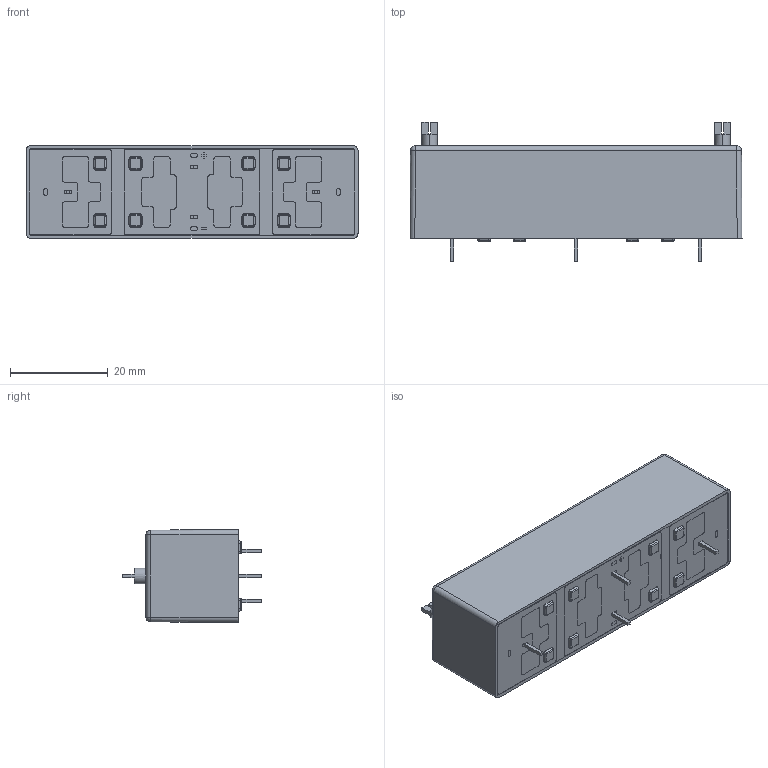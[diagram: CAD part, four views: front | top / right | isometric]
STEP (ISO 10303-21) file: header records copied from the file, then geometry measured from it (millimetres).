
FILE_DESCRIPTION (( 'STEP AP203' ), '1' );
FILE_NAME ('Series 600 - 620 1A or B TB-1.STEP', '2025-07-01T09:10:19', ( '' ), ( '' ), 'SwSTEP 2.0', 'SolidWorks 2023', '' );
FILE_SCHEMA (( 'CONFIG_CONTROL_DESIGN' ));
Length unit declared in the file: millimetre
Products named in the file (1): Series 600 - 620 1A or B TB-1
Bounding box: 68 x 28.5 x 19 mm (x, y, z)
Volume: 3079.9 mm3; surface area: 11708.4 mm2
Topology: 39 solids, 39 shells, 965 faces, 2480 edges, 1596 vertices
Faces by surface type: plane 457, cylinder 376, bspline 96, sphere 36
Entity records: 29999 total; most frequent: CARTESIAN_POINT 7326, ORIENTED_EDGE 4960, DIRECTION 4500, EDGE_CURVE 2480, VERTEX_POINT 1596, AXIS2_PLACEMENT_3D 1538, LINE 1424, VECTOR 1424
